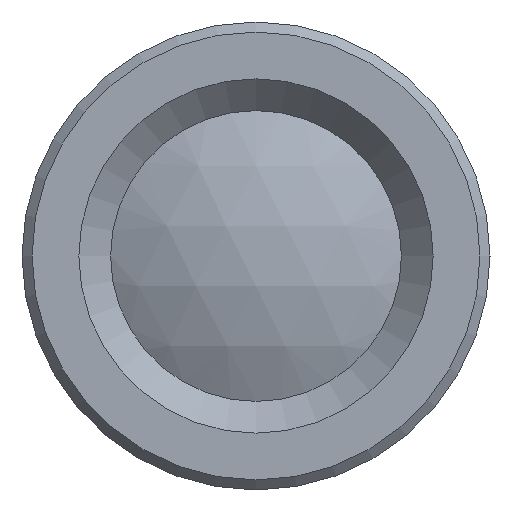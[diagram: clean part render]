
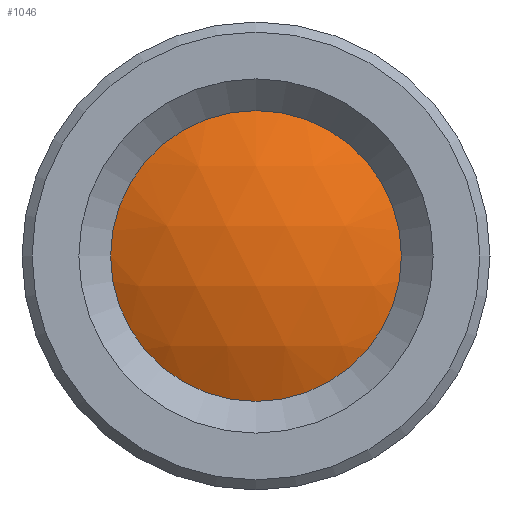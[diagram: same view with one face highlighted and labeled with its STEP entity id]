
A CAD part, left-side view. The second image highlights one B-rep face of the part: STEP entity #1046.
In plain terms, the highlighted spherical face has radius 9.2 mm.
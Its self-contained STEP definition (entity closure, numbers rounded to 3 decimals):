
#91 = CARTESIAN_POINT ( 'NONE',  ( -118685.889, 49154.664, 4.35 ) ) ;
#119 = ORIENTED_EDGE ( 'NONE', *, *, #181, .T. ) ;
#180 = SPHERICAL_SURFACE ( 'NONE', #226, 9.2 ) ;
#181 = EDGE_CURVE ( 'NONE', #1579, #1579, #1240, .T. ) ;
#203 = DIRECTION ( 'NONE',  ( 0., 0., 1. ) ) ;
#226 = AXIS2_PLACEMENT_3D ( 'NONE', #1019, #359, #1682 ) ;
#359 = DIRECTION ( 'NONE',  ( 0., 0., -1. ) ) ;
#502 = FACE_OUTER_BOUND ( 'NONE', #688, .T. ) ;
#531 = DIRECTION ( 'NONE',  ( -1., 0., 0. ) ) ;
#688 = EDGE_LOOP ( 'NONE', ( #119 ) ) ;
#719 = AXIS2_PLACEMENT_3D ( 'NONE', #2003, #531, #203 ) ;
#1019 = CARTESIAN_POINT ( 'NONE',  ( -118677.782, 49154.664, 0. ) ) ;
#1046 = ADVANCED_FACE ( 'NONE', ( #502 ), #180, .T. ) ;
#1240 = CIRCLE ( 'NONE', #719, 4.35 ) ;
#1579 = VERTEX_POINT ( 'NONE', #91 ) ;
#1682 = DIRECTION ( 'NONE',  ( 0., 1., 0. ) ) ;
#2003 = CARTESIAN_POINT ( 'NONE',  ( -118685.889, 49154.664, 0. ) ) ;
